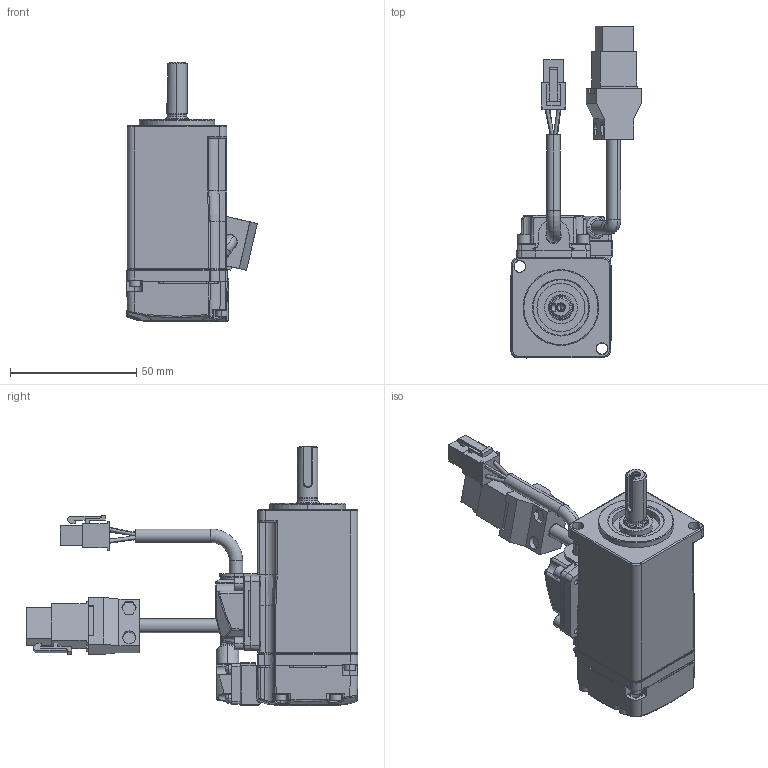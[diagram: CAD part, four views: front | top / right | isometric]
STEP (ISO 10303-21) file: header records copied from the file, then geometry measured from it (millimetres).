
FILE_DESCRIPTION((''),'2;1');
FILE_NAME('ECM-E3M-CX0401RSE','2022-03-25T08:59:01',('MIO.CHEN'),(''),'CREO PARAMETRIC BY PTC INC, 2017110','CREO PARAMETRIC BY PTC INC, 2017110','');
FILE_SCHEMA(('CONFIG_CONTROL_DESIGN'));
Length unit declared in the file: millimetre
Products named in the file (1): ECM-E3M-CX0401RSE
Bounding box: 51.69 x 131.43 x 102.6 mm (x, y, z)
Volume: 144162 mm3; surface area: 30189.9 mm2
Topology: 1 solids, 1 shells, 958 faces, 2484 edges, 1550 vertices
Faces by surface type: plane 390, cylinder 292, bspline 119, cone 75, torus 60, sphere 19, extrusion 3
Entity records: 35758 total; most frequent: CARTESIAN_POINT 13439, ORIENTED_EDGE 4942, DIRECTION 4243, EDGE_CURVE 2471, VERTEX_POINT 1550, AXIS2_PLACEMENT_3D 1518, VECTOR 1207, LINE 1204
